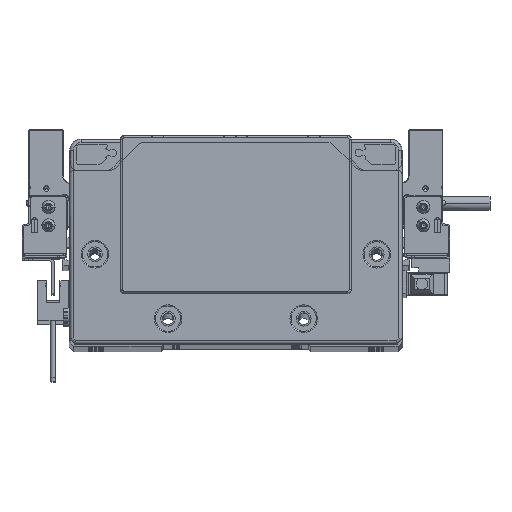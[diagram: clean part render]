
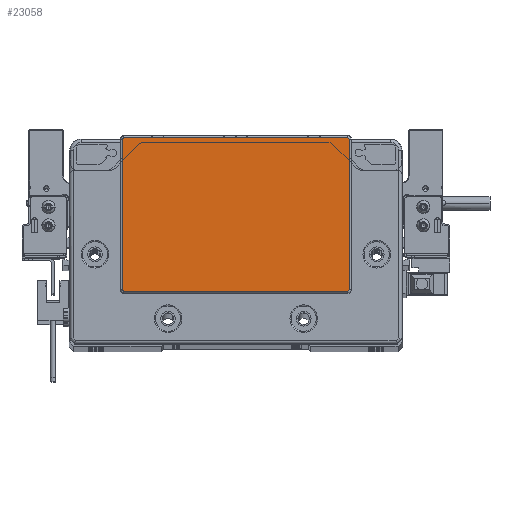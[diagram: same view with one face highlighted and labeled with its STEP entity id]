
A CAD part, top view. The second image highlights one B-rep face of the part: STEP entity #23058.
In plain terms, the highlighted planar face has unit normal (0, 0, 1) as drawn and (0, 0, -1) by its records, which use the part's own axes.
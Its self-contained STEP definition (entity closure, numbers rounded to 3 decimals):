
#842 = EDGE_CURVE ( 'NONE', #48786, #72744, #53255, .T. ) ;
#1844 = DIRECTION ( 'NONE',  ( -1., 0., 0. ) ) ;
#2711 = AXIS2_PLACEMENT_3D ( 'NONE', #20925, #82819, #74914 ) ;
#4877 = EDGE_CURVE ( 'NONE', #19328, #48786, #57490, .T. ) ;
#6185 = CARTESIAN_POINT ( 'NONE',  ( -49.25, -21.8, -2. ) ) ;
#8198 = CIRCLE ( 'NONE', #77836, 0.5 ) ;
#9881 = CARTESIAN_POINT ( 'NONE',  ( 48.75, -22.3, -2. ) ) ;
#10726 = DIRECTION ( 'NONE',  ( 0., 0., -1. ) ) ;
#11010 = EDGE_CURVE ( 'NONE', #77932, #28797, #94320, .T. ) ;
#14220 = EDGE_CURVE ( 'NONE', #80322, #79943, #88996, .T. ) ;
#14899 = CARTESIAN_POINT ( 'NONE',  ( 48.75, 44.3, -2. ) ) ;
#15296 = ORIENTED_EDGE ( 'NONE', *, *, #4877, .T. ) ;
#15699 = FACE_OUTER_BOUND ( 'NONE', #58536, .T. ) ;
#15877 = LINE ( 'NONE', #14899, #55123 ) ;
#16589 = VECTOR ( 'NONE', #50381, 1000. ) ;
#16870 = ORIENTED_EDGE ( 'NONE', *, *, #40695, .T. ) ;
#17170 = DIRECTION ( 'NONE',  ( -1., 0., 0. ) ) ;
#19328 = VERTEX_POINT ( 'NONE', #90589 ) ;
#19773 = CARTESIAN_POINT ( 'NONE',  ( -48.75, -22.3, -2. ) ) ;
#20925 = CARTESIAN_POINT ( 'NONE',  ( 48.75, 43.8, -2. ) ) ;
#21138 = CARTESIAN_POINT ( 'NONE',  ( -49.25, 43.8, -2. ) ) ;
#23058 = ADVANCED_FACE ( 'NONE', ( #15699 ), #75148, .T. ) ;
#23524 = DIRECTION ( 'NONE',  ( -1., 0., 0. ) ) ;
#28797 = VERTEX_POINT ( 'NONE', #34404 ) ;
#34404 = CARTESIAN_POINT ( 'NONE',  ( 49.25, 43.8, -2. ) ) ;
#36389 = DIRECTION ( 'NONE',  ( 0., -1., 0. ) ) ;
#36874 = LINE ( 'NONE', #58211, #55543 ) ;
#37349 = ORIENTED_EDGE ( 'NONE', *, *, #11010, .T. ) ;
#38587 = CARTESIAN_POINT ( 'NONE',  ( 48.75, 44.3, -2. ) ) ;
#38885 = CARTESIAN_POINT ( 'NONE',  ( -48.75, -21.8, -2. ) ) ;
#39421 = DIRECTION ( 'NONE',  ( 0., 0., -1. ) ) ;
#39643 = VERTEX_POINT ( 'NONE', #67568 ) ;
#40035 = ORIENTED_EDGE ( 'NONE', *, *, #14220, .T. ) ;
#40672 = DIRECTION ( 'NONE',  ( -1., 0., 0. ) ) ;
#40695 = EDGE_CURVE ( 'NONE', #28797, #19328, #36874, .T. ) ;
#43811 = VECTOR ( 'NONE', #23524, 1000. ) ;
#48786 = VERTEX_POINT ( 'NONE', #9881 ) ;
#50381 = DIRECTION ( 'NONE',  ( 0., 1., 0. ) ) ;
#52360 = EDGE_CURVE ( 'NONE', #39643, #77932, #15877, .T. ) ;
#53255 = LINE ( 'NONE', #53747, #43811 ) ;
#53530 = ORIENTED_EDGE ( 'NONE', *, *, #72158, .T. ) ;
#53747 = CARTESIAN_POINT ( 'NONE',  ( -48.75, -22.3, -2. ) ) ;
#55123 = VECTOR ( 'NONE', #61443, 1000. ) ;
#55543 = VECTOR ( 'NONE', #36389, 1000. ) ;
#57490 = CIRCLE ( 'NONE', #90686, 0.5 ) ;
#58211 = CARTESIAN_POINT ( 'NONE',  ( 49.25, -21.8, -2. ) ) ;
#58536 = EDGE_LOOP ( 'NONE', ( #16870, #15296, #83021, #53530, #40035, #64982, #61365, #37349 ) ) ;
#61365 = ORIENTED_EDGE ( 'NONE', *, *, #52360, .T. ) ;
#61443 = DIRECTION ( 'NONE',  ( 1., 0., 0. ) ) ;
#62174 = DIRECTION ( 'NONE',  ( -1., 0., 0. ) ) ;
#64982 = ORIENTED_EDGE ( 'NONE', *, *, #86450, .T. ) ;
#65690 = AXIS2_PLACEMENT_3D ( 'NONE', #76125, #10726, #17170 ) ;
#67191 = CARTESIAN_POINT ( 'NONE',  ( -49.25, 43.8, -2. ) ) ;
#67568 = CARTESIAN_POINT ( 'NONE',  ( -48.75, 44.3, -2. ) ) ;
#71858 = DIRECTION ( 'NONE',  ( 0., 0., -1. ) ) ;
#72158 = EDGE_CURVE ( 'NONE', #72744, #80322, #89227, .T. ) ;
#72744 = VERTEX_POINT ( 'NONE', #19773 ) ;
#74914 = DIRECTION ( 'NONE',  ( -1., 0., 0. ) ) ;
#75148 = PLANE ( 'NONE',  #65690 ) ;
#76125 = CARTESIAN_POINT ( 'NONE',  ( 0., 0., -2. ) ) ;
#77095 = CARTESIAN_POINT ( 'NONE',  ( 48.75, -21.8, -2. ) ) ;
#77522 = DIRECTION ( 'NONE',  ( 0., 0., -1. ) ) ;
#77836 = AXIS2_PLACEMENT_3D ( 'NONE', #77843, #71858, #40672 ) ;
#77843 = CARTESIAN_POINT ( 'NONE',  ( -48.75, 43.8, -2. ) ) ;
#77932 = VERTEX_POINT ( 'NONE', #38587 ) ;
#79943 = VERTEX_POINT ( 'NONE', #67191 ) ;
#80322 = VERTEX_POINT ( 'NONE', #6185 ) ;
#82819 = DIRECTION ( 'NONE',  ( 0., 0., -1. ) ) ;
#83021 = ORIENTED_EDGE ( 'NONE', *, *, #842, .T. ) ;
#86450 = EDGE_CURVE ( 'NONE', #79943, #39643, #8198, .T. ) ;
#88996 = LINE ( 'NONE', #21138, #16589 ) ;
#89161 = AXIS2_PLACEMENT_3D ( 'NONE', #38885, #77522, #62174 ) ;
#89227 = CIRCLE ( 'NONE', #89161, 0.5 ) ;
#90589 = CARTESIAN_POINT ( 'NONE',  ( 49.25, -21.8, -2. ) ) ;
#90686 = AXIS2_PLACEMENT_3D ( 'NONE', #77095, #39421, #1844 ) ;
#94320 = CIRCLE ( 'NONE', #2711, 0.5 ) ;
